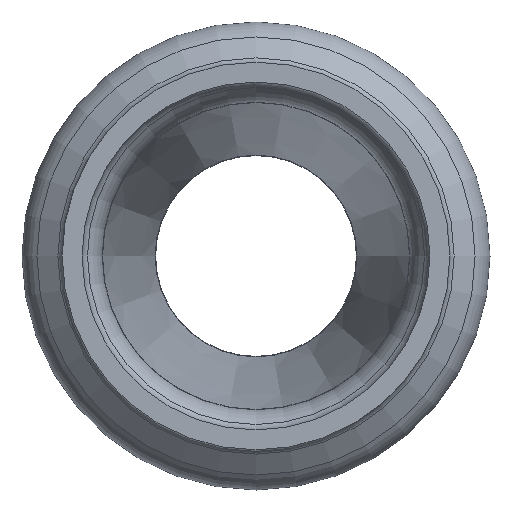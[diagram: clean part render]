
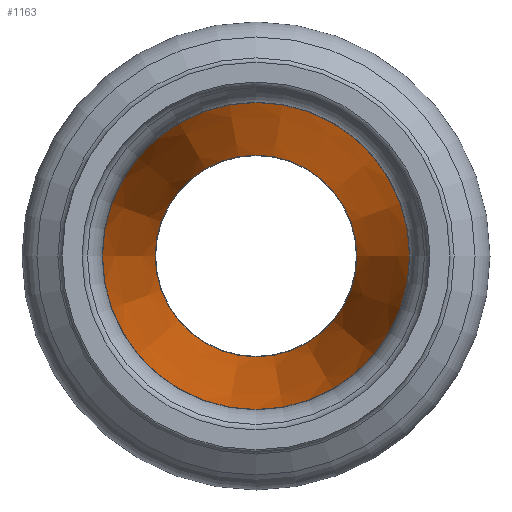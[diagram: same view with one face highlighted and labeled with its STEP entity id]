
A CAD part, left-side view. The second image highlights one B-rep face of the part: STEP entity #1163.
In plain terms, the highlighted conical face has half-angle 8.275 degrees and reference radius 17.647 mm.
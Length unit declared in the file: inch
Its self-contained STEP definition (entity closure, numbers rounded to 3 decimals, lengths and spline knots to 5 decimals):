
#76=LINE('',#2154,#98);
#98=VECTOR('',#1741,0.69475);
#112=CONICAL_SURFACE('',#1349,0.69475,0.144);
#149=FACE_OUTER_BOUND('',#198,.T.);
#198=EDGE_LOOP('',(#951,#952,#953,#954,#955,#956,#957,#958));
#327=CIRCLE('',#1345,0.55077);
#328=CIRCLE('',#1346,0.55077);
#329=CIRCLE('',#1347,0.55077);
#331=CIRCLE('',#1350,0.83873);
#332=CIRCLE('',#1351,0.83873);
#333=CIRCLE('',#1352,0.83873);
#470=VERTEX_POINT('',#2145);
#471=VERTEX_POINT('',#2146);
#472=VERTEX_POINT('',#2148);
#473=VERTEX_POINT('',#2153);
#474=VERTEX_POINT('',#2155);
#475=VERTEX_POINT('',#2157);
#638=EDGE_CURVE('',#470,#471,#327,.T.);
#639=EDGE_CURVE('',#472,#470,#328,.T.);
#640=EDGE_CURVE('',#471,#472,#329,.T.);
#642=EDGE_CURVE('',#472,#473,#76,.T.);
#643=EDGE_CURVE('',#474,#473,#331,.T.);
#644=EDGE_CURVE('',#475,#474,#332,.T.);
#645=EDGE_CURVE('',#473,#475,#333,.T.);
#951=ORIENTED_EDGE('',*,*,#638,.T.);
#952=ORIENTED_EDGE('',*,*,#640,.T.);
#953=ORIENTED_EDGE('',*,*,#642,.T.);
#954=ORIENTED_EDGE('',*,*,#643,.F.);
#955=ORIENTED_EDGE('',*,*,#644,.F.);
#956=ORIENTED_EDGE('',*,*,#645,.F.);
#957=ORIENTED_EDGE('',*,*,#642,.F.);
#958=ORIENTED_EDGE('',*,*,#639,.T.);
#1163=ADVANCED_FACE('',(#149),#112,.F.);
#1345=AXIS2_PLACEMENT_3D('',#2147,#1731,#1732);
#1346=AXIS2_PLACEMENT_3D('',#2149,#1733,#1734);
#1347=AXIS2_PLACEMENT_3D('',#2150,#1735,#1736);
#1349=AXIS2_PLACEMENT_3D('',#2152,#1739,#1740);
#1350=AXIS2_PLACEMENT_3D('',#2156,#1742,#1743);
#1351=AXIS2_PLACEMENT_3D('',#2158,#1744,#1745);
#1352=AXIS2_PLACEMENT_3D('',#2159,#1746,#1747);
#1731=DIRECTION('center_axis',(1.,0.,0.));
#1732=DIRECTION('ref_axis',(0.,1.,0.));
#1733=DIRECTION('center_axis',(1.,0.,0.));
#1734=DIRECTION('ref_axis',(0.,1.,0.));
#1735=DIRECTION('center_axis',(1.,0.,0.));
#1736=DIRECTION('ref_axis',(0.,1.,0.));
#1739=DIRECTION('center_axis',(-1.,0.,0.));
#1740=DIRECTION('ref_axis',(0.,1.,0.));
#1741=DIRECTION('',(-0.99,-0.144,0.));
#1742=DIRECTION('center_axis',(1.,0.,0.));
#1743=DIRECTION('ref_axis',(0.,1.,0.));
#1744=DIRECTION('center_axis',(1.,0.,0.));
#1745=DIRECTION('ref_axis',(0.,1.,0.));
#1746=DIRECTION('center_axis',(1.,0.,0.));
#1747=DIRECTION('ref_axis',(0.,1.,0.));
#2145=CARTESIAN_POINT('',(0.98998,0.55077,0.));
#2146=CARTESIAN_POINT('',(0.98998,0.,0.55077));
#2147=CARTESIAN_POINT('Origin',(0.98998,0.,
0.));
#2148=CARTESIAN_POINT('',(0.98998,-0.55077,0.));
#2149=CARTESIAN_POINT('Origin',(0.98998,0.,
0.));
#2150=CARTESIAN_POINT('Origin',(0.98998,0.,
0.));
#2152=CARTESIAN_POINT('Origin',(0.,0.,0.));
#2153=CARTESIAN_POINT('',(-0.98998,-0.83873,0.));
#2154=CARTESIAN_POINT('',(0.,-0.69475,0.));
#2155=CARTESIAN_POINT('',(-0.98998,0.,0.83873));
#2156=CARTESIAN_POINT('Origin',(-0.98998,0.,
0.));
#2157=CARTESIAN_POINT('',(-0.98998,0.83873,0.));
#2158=CARTESIAN_POINT('Origin',(-0.98998,0.,
0.));
#2159=CARTESIAN_POINT('Origin',(-0.98998,0.,
0.));
